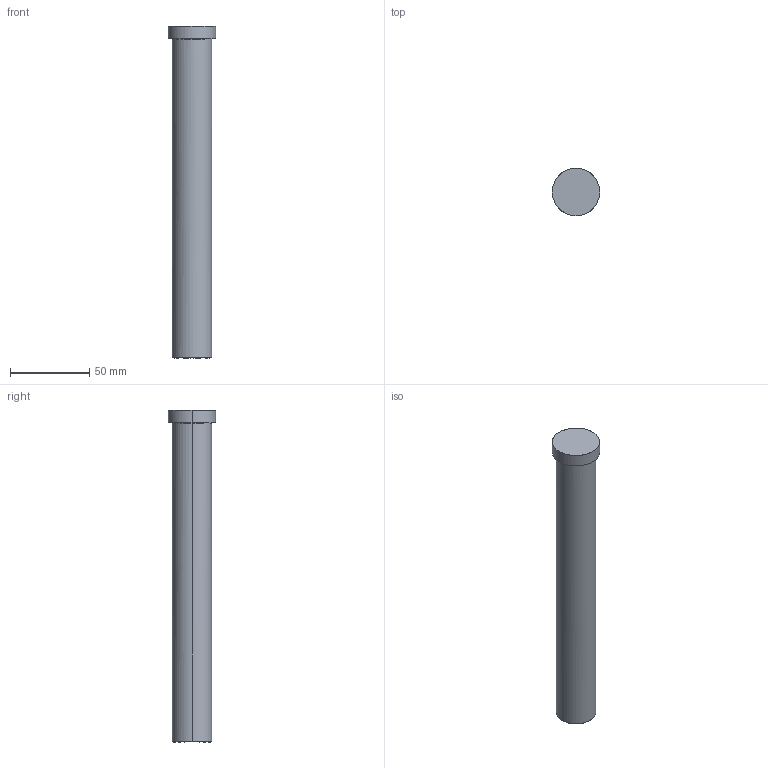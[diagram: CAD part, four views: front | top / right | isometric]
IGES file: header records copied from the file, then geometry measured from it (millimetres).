
Global section: file name: E:\UnigraphicsGraphicData\MISUMI_PRESS-PARTS\IGES\3d_hcup25-210_01342_r00.igs; native system: NX V5.0; preprocessor: UGS NX IGES V5.0; author: MISUMI; date: 20110105.160934; units: millimetre
Bounding box: 30 x 30 x 210 mm (x, y, z)
Surface area: 17994.3 mm2 (no closed solid volume)
Topology: 0 solids, 0 shells, 11 faces, 88 edges, 88 vertices
Faces by surface type: bspline 11
